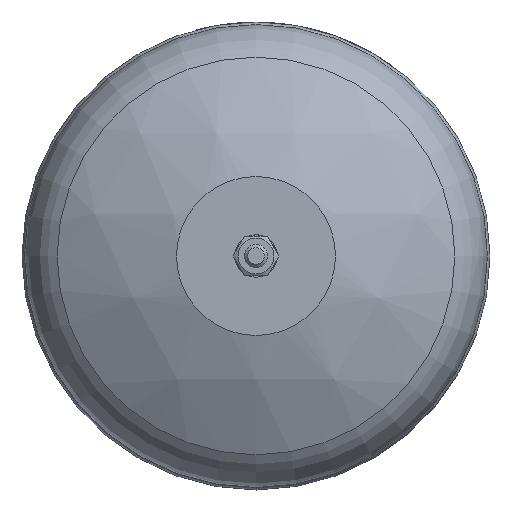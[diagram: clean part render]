
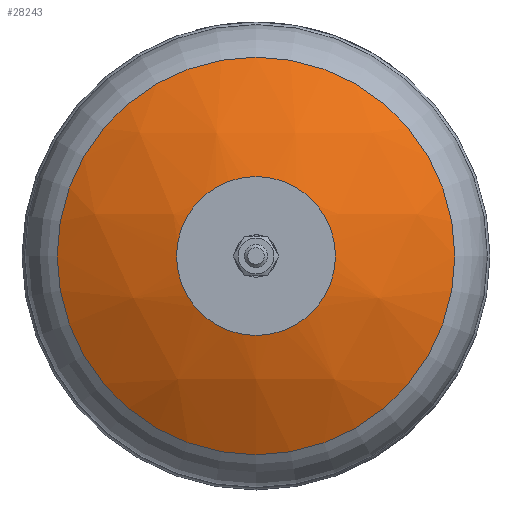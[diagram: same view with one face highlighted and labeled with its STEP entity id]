
A CAD part, front view. The second image highlights one B-rep face of the part: STEP entity #28243.
In plain terms, the highlighted spherical face has radius 159 mm.
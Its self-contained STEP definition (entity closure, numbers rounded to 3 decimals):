
#4987=SPHERICAL_SURFACE('',#30429,159.);
#6372=FACE_BOUND('',#9723,.T.);
#7953=FACE_OUTER_BOUND('',#9722,.T.);
#9722=EDGE_LOOP('',(#25523));
#9723=EDGE_LOOP('',(#25524));
#10440=CIRCLE('',#30428,85.047);
#10441=CIRCLE('',#30430,34.);
#13222=VERTEX_POINT('',#59970);
#13223=VERTEX_POINT('',#59973);
#17350=EDGE_CURVE('',#13222,#13222,#10440,.T.);
#17351=EDGE_CURVE('',#13223,#13223,#10441,.T.);
#25523=ORIENTED_EDGE('',*,*,#17350,.T.);
#25524=ORIENTED_EDGE('',*,*,#17351,.F.);
#28243=ADVANCED_FACE('',(#7953,#6372),#4987,.T.);
#30428=AXIS2_PLACEMENT_3D('',#59971,#36750,#36751);
#30429=AXIS2_PLACEMENT_3D('',#59972,#36752,#36753);
#30430=AXIS2_PLACEMENT_3D('',#59974,#36754,#36755);
#36750=DIRECTION('center_axis',(0.,-1.,0.));
#36751=DIRECTION('ref_axis',(1.,0.,0.));
#36752=DIRECTION('center_axis',(0.,0.,
1.));
#36753=DIRECTION('ref_axis',(-1.,0.,0.));
#36754=DIRECTION('center_axis',(0.,-1.,0.));
#36755=DIRECTION('ref_axis',(1.,0.,0.));
#59970=CARTESIAN_POINT('',(85.047,-149.021,0.));
#59971=CARTESIAN_POINT('Origin',(0.,-149.021,
0.));
#59972=CARTESIAN_POINT('Origin',(0.,-14.678,
0.));
#59973=CARTESIAN_POINT('',(34.,-170.,0.));
#59974=CARTESIAN_POINT('Origin',(0.,-170.,0.));
